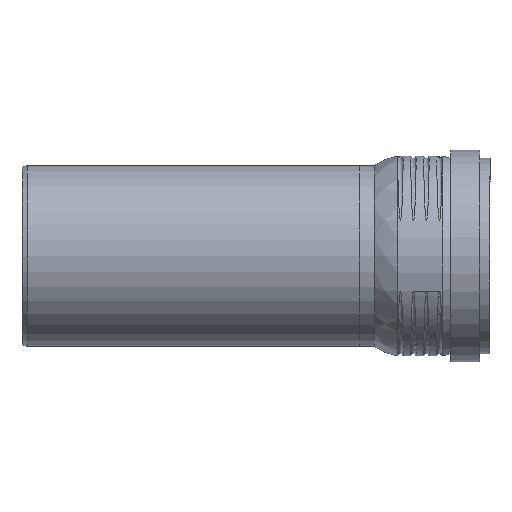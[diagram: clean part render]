
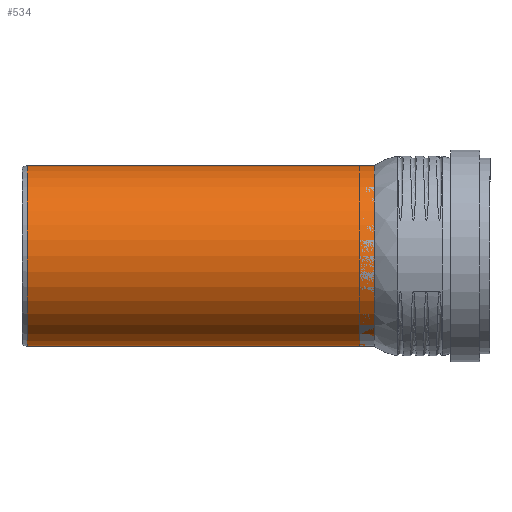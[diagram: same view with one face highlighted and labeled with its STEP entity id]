
A CAD part, top view. The second image highlights one B-rep face of the part: STEP entity #534.
In plain terms, the highlighted cylindrical face has radius 62.6 mm (diameter 125.2 mm), a full revolution.
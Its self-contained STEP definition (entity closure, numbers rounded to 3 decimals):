
#66=CYLINDRICAL_SURFACE('',#580,62.6);
#87=FACE_BOUND('',#158,.T.);
#122=FACE_OUTER_BOUND('',#157,.T.);
#157=EDGE_LOOP('',(#370));
#158=EDGE_LOOP('',(#371));
#222=CIRCLE('',#576,62.6);
#225=CIRCLE('',#581,62.6);
#249=VERTEX_POINT('',#771);
#252=VERTEX_POINT('',#779);
#304=EDGE_CURVE('',#249,#249,#222,.T.);
#307=EDGE_CURVE('',#252,#252,#225,.T.);
#370=ORIENTED_EDGE('',*,*,#307,.F.);
#371=ORIENTED_EDGE('',*,*,#304,.F.);
#534=ADVANCED_FACE('',(#122,#87),#66,.T.);
#576=AXIS2_PLACEMENT_3D('',#772,#643,#644);
#580=AXIS2_PLACEMENT_3D('',#778,#651,#652);
#581=AXIS2_PLACEMENT_3D('',#780,#653,#654);
#643=DIRECTION('center_axis',(-1.,0.,0.));
#644=DIRECTION('ref_axis',(0.,1.,0.));
#651=DIRECTION('center_axis',(1.,0.,0.));
#652=DIRECTION('ref_axis',(0.,1.,0.));
#653=DIRECTION('center_axis',(1.,0.,0.));
#654=DIRECTION('ref_axis',(0.,1.,0.));
#771=CARTESIAN_POINT('',(-118.4,-62.6,0.));
#772=CARTESIAN_POINT('Origin',(-118.4,0.,0.));
#778=CARTESIAN_POINT('Origin',(0.,0.,
0.));
#779=CARTESIAN_POINT('',(121.9,-62.6,0.));
#780=CARTESIAN_POINT('Origin',(121.9,0.,0.));
